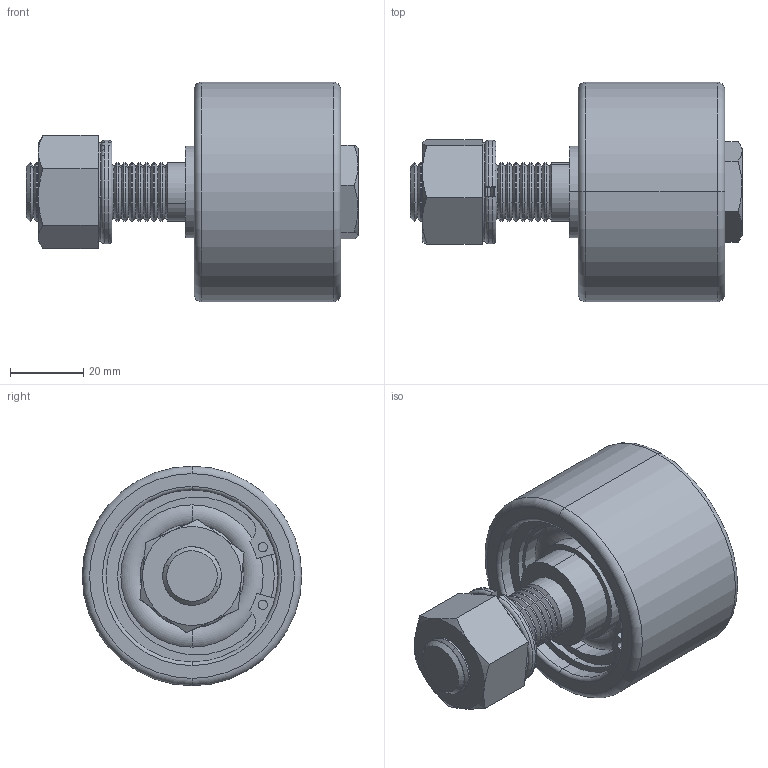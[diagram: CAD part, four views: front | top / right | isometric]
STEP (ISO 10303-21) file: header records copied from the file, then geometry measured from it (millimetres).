
FILE_DESCRIPTION (( 'STEP AP203' ), '1' );
FILE_NAME ('CAMST60X40M16.STEP', '2019-11-10T03:05:57', ( '' ), ( '' ), 'SwSTEP 2.0', 'SolidWorks 2013', '' );
FILE_SCHEMA (( 'CONFIG_CONTROL_DESIGN' ));
Length unit declared in the file: millimetre
Products named in the file (1): CAMST60X40M16
Bounding box: 90.75 x 60 x 60 mm (x, y, z)
Volume: 111878.3 mm3; surface area: 49618.3 mm2
Topology: 9 solids, 9 shells, 314 faces, 752 edges, 466 vertices
Faces by surface type: cylinder 128, cone 94, plane 56, torus 36
Entity records: 9469 total; most frequent: DIRECTION 1800, CARTESIAN_POINT 1749, ORIENTED_EDGE 1504, AXIS2_PLACEMENT_3D 765, EDGE_CURVE 752, VERTEX_POINT 466, CIRCLE 450, EDGE_LOOP 342
